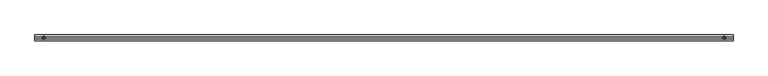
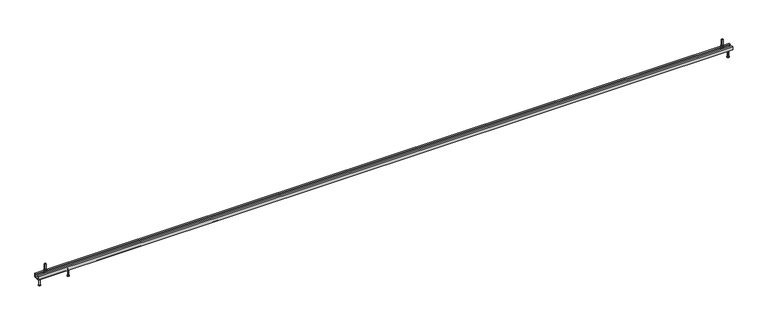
"""IFC4 building model written with IfcOpenShell, lengths in millimetres: fastener geometry, JTA-K JORDAHL® AnchorChannels : JTA-K L=6000 mm."""

from ifc_helpers import new_model, si_unit, point, frame, frame_2d, origin, place, context, project, spatial, polyline, circle_curve, trimmed, segment, composite_curve, outline, extrude, source, transform, mapped, element, save
from ifc_brep_helpers import plane_surface, cylinder_surface, revolved_surface, advanced_brep


def fastener_ee30c52b(model_context):
    return source(origin(), model_context, "Body", "SolidModel", [
        advanced_brep(
        [(272.9166667, 0.0, -30.0), (259.4166667, 0.0, -30.0), (286.4166667, 0.0, -30.0), (264.4166667, 0.0, -100.0), (272.9166667, 0.0, -100.0), (281.4166667, 0.0, -100.0), (264.4166667, 0.0, -98.0), (281.4166667, 0.0, -98.0), (268.4166667, 0.0, -95.6905989), (277.4166667, 0.0, -95.6905989), (268.4166667, 0.0, -32.5), (277.4166667, 0.0, -32.5)],
        [
            (0, 1),
            (1, 2, circle_curve(frame((272.9166667, 0.0, -30.0), z_axis=(0.0, 0.0, 1.0), x_axis=(1.0, 0.0, 0.0)), 13.5)),
            (2, 0),
            (2, 1, circle_curve(frame((272.9166667, 0.0, -30.0), z_axis=(0.0, 0.0, 1.0), x_axis=(1.0, 0.0, 0.0)), 13.5)),
            (3, 4),
            (4, 5),
            (5, 3, circle_curve(frame((272.9166667, 0.0, -100.0), z_axis=(0.0, 0.0, -1.0), x_axis=(1.0, 0.0, 0.0)), 8.5)),
            (3, 5, circle_curve(frame((272.9166667, 0.0, -100.0), z_axis=(0.0, 0.0, -1.0), x_axis=(1.0, 0.0, 0.0)), 8.5)),
            (6, 3),
            (5, 7),
            (7, 6, circle_curve(frame((272.9166667, 0.0, -98.0), z_axis=(0.0, 0.0, -1.0), x_axis=(1.0, 0.0, 0.0)), 8.5)),
            (6, 7, circle_curve(frame((272.9166667, 0.0, -98.0), z_axis=(0.0, 0.0, -1.0), x_axis=(1.0, 0.0, 0.0)), 8.5)),
            (8, 6),
            (7, 9),
            (9, 8, circle_curve(frame((272.9166667, 0.0, -95.6905989), z_axis=(0.0, 0.0, -1.0), x_axis=(1.0, 0.0, 0.0)), 4.5)),
            (8, 9, circle_curve(frame((272.9166667, 0.0, -95.6905989), z_axis=(0.0, 0.0, -1.0), x_axis=(1.0, 0.0, 0.0)), 4.5)),
            (10, 8),
            (9, 11),
            (11, 10, circle_curve(frame((272.9166667, 0.0, -32.5), z_axis=(0.0, 0.0, -1.0), x_axis=(1.0, 0.0, 0.0)), 4.5)),
            (10, 11, circle_curve(frame((272.9166667, 0.0, -32.5), z_axis=(0.0, 0.0, -1.0), x_axis=(1.0, 0.0, 0.0)), 4.5)),
            (1, 10),
            (11, 2),
        ],
        [
            plane_surface(frame((272.9166667, 0.0, -30.0), z_axis=(0.0, 0.0, 1.0), x_axis=(1.0, 0.0, 0.0))),
            plane_surface(frame((272.9166667, 0.0, -100.0), z_axis=(0.0, 0.0, -1.0), x_axis=(1.0, 0.0, 0.0))),
            cylinder_surface(frame((272.9166667, 0.0, 2284.3150031), z_axis=(0.0, 0.0, 1.0), x_axis=(1.0, 0.0, 0.0)), 8.5),
            revolved_surface(polyline([(281.4166667, 0.0, -98.0), (277.4166667, 0.0, -95.6905989)]), (272.9166667, 0.0, 2284.3150031), (0.0, 0.0, 1.0)),
            cylinder_surface(frame((272.9166667, 0.0, 2284.3150031), z_axis=(0.0, 0.0, 1.0), x_axis=(1.0, 0.0, 0.0)), 4.5),
            revolved_surface(polyline([(277.4166667, 0.0, -32.5), (286.4166667, 0.0, -30.0)]), (272.9166667, 0.0, 2284.3150031), (0.0, 0.0, 1.0)),
        ],
        [
            (0, [[1, 2, 3]]),
            (0, [[-3, 4, -1]]),
            (1, [[5, 6, 7]]),
            (1, [[-6, -5, 8]]),
            (2, [[9, -7, 10, 11]]),
            (2, [[-10, -8, -9, 12]]),
            (3, [[13, -11, 14, 15]]),
            (3, [[-14, -12, -13, 16]]),
            (4, [[17, -15, 18, 19]]),
            (4, [[-18, -16, -17, 20]]),
            (5, [[21, -19, 22, -2]]),
            (5, [[-22, -20, -21, -4]]),
        ],
    ),
        extrude(outline(polyline([(5925.0, -10.3923048), (5916.0, -5.1961524), (5916.0, 5.1961524), (5925.0, 10.3923048), (5934.0, 5.1961524), (5934.0, -5.1961524), (5925.0, -10.3923048)]), holes=[composite_curve([segment(trimmed(circle_curve(frame_2d((5925.0, 0.0)), 6.0), [point((5919.0, 0.0))], [point((5931.0, 0.0))], True, "CARTESIAN"), True, "CONTINUOUS"), segment(trimmed(circle_curve(frame_2d((5925.0, 0.0)), 6.0), [point((5931.0, 0.0))], [point((5919.0, 0.0))], True, "CARTESIAN"), True, "CONTINUOUS")], self_intersect=False)]), frame((0.0, 0.0, 17.5), z_axis=(0.0, 0.0, 1.0), x_axis=(1.0, 0.0, 0.0)), (0.0, 0.0, 1.0), 10.8),
        extrude(outline(composite_curve([segment(trimmed(circle_curve(frame_2d((5925.0, 0.0)), 12.0), [point((5913.0, 0.0))], [point((5937.0, 0.0))], False, "CARTESIAN"), True, "CONTINUOUS"), segment(trimmed(circle_curve(frame_2d((5925.0, 0.0)), 12.0), [point((5937.0, 0.0))], [point((5913.0, 0.0))], False, "CARTESIAN"), True, "CONTINUOUS")], self_intersect=False), holes=[composite_curve([segment(trimmed(circle_curve(frame_2d((5925.0, 0.0)), 6.5), [point((5918.5, 0.0))], [point((5931.5, 0.0))], True, "CARTESIAN"), True, "CONTINUOUS"), segment(trimmed(circle_curve(frame_2d((5925.0, 0.0)), 6.5), [point((5931.5, 0.0))], [point((5918.5, 0.0))], True, "CARTESIAN"), True, "CONTINUOUS")], self_intersect=False)]), frame((0.0, 0.0, 15.0), z_axis=(0.0, 0.0, 1.0), x_axis=(1.0, 0.0, 0.0)), (0.0, 0.0, 1.0), 2.5),
        extrude(outline(polyline([(75.0, -10.3923048), (66.0, -5.1961524), (66.0, 5.1961524), (75.0, 10.3923048), (84.0, 5.1961524), (84.0, -5.1961524), (75.0, -10.3923048)]), holes=[composite_curve([segment(trimmed(circle_curve(frame_2d((75.0, 0.0)), 6.0), [point((69.0, 0.0))], [point((81.0, 0.0))], True, "CARTESIAN"), True, "CONTINUOUS"), segment(trimmed(circle_curve(frame_2d((75.0, 0.0)), 6.0), [point((81.0, 0.0))], [point((69.0, 0.0))], True, "CARTESIAN"), True, "CONTINUOUS")], self_intersect=False)]), frame((0.0, 0.0, 17.5), z_axis=(0.0, 0.0, 1.0), x_axis=(1.0, 0.0, 0.0)), (0.0, 0.0, 1.0), 10.8),
        extrude(outline(composite_curve([segment(trimmed(circle_curve(frame_2d((75.0, 0.0)), 12.0), [point((63.0, 0.0))], [point((87.0, 0.0))], False, "CARTESIAN"), True, "CONTINUOUS"), segment(trimmed(circle_curve(frame_2d((75.0, 0.0)), 12.0), [point((87.0, 0.0))], [point((63.0, 0.0))], False, "CARTESIAN"), True, "CONTINUOUS")], self_intersect=False), holes=[composite_curve([segment(trimmed(circle_curve(frame_2d((75.0, 0.0)), 6.5), [point((68.5, 0.0))], [point((81.5, 0.0))], True, "CARTESIAN"), True, "CONTINUOUS"), segment(trimmed(circle_curve(frame_2d((75.0, 0.0)), 6.5), [point((81.5, 0.0))], [point((68.5, 0.0))], True, "CARTESIAN"), True, "CONTINUOUS")], self_intersect=False)]), frame((0.0, 0.0, 15.0), z_axis=(0.0, 0.0, 1.0), x_axis=(1.0, 0.0, 0.0)), (0.0, 0.0, 1.0), 2.5),
        advanced_brep(
        [(5933.5, -20.7, -3.0), (5933.5, -20.7, -13.0), (5933.5, 20.7, -13.0), (5933.5, 20.7, -3.0), (5916.5, -20.7, -3.0), (5916.5, 20.7, -3.0), (5916.5, 20.7, -13.0), (5916.5, -20.7, -13.0), (5931.0, 0.0, -3.0), (5919.0, 0.0, -3.0), (5919.0, 0.0, 77.0), (5931.0, 0.0, 77.0)],
        [
            (0, 1),
            (1, 2),
            (2, 3),
            (3, 0),
            (4, 5),
            (5, 6),
            (6, 7),
            (7, 4),
            (3, 5),
            (4, 0),
            (8, 9, circle_curve(frame((5925.0, 0.0, -3.0), z_axis=(0.0, 0.0, -1.0), x_axis=(1.0, 0.0, 0.0)), 6.0)),
            (9, 8, circle_curve(frame((5925.0, 0.0, -3.0), z_axis=(0.0, 0.0, -1.0), x_axis=(1.0, 0.0, 0.0)), 6.0)),
            (2, 6),
            (1, 7),
            (10, 11, circle_curve(frame((5925.0, 0.0, 77.0), z_axis=(0.0, 0.0, 1.0), x_axis=(1.0, 0.0, 0.0)), 6.0)),
            (11, 10, circle_curve(frame((5925.0, 0.0, 77.0), z_axis=(0.0, 0.0, 1.0), x_axis=(1.0, 0.0, 0.0)), 6.0)),
            (11, 8),
            (9, 10),
        ],
        [
            plane_surface(frame((5933.5, 20.7, -3.0), z_axis=(1.0, 0.0, 0.0), x_axis=(0.0, 1.0, 0.0))),
            plane_surface(frame((5916.5, 20.7, -3.0), z_axis=(-1.0, 0.0, 0.0), x_axis=(0.0, -1.0, 0.0))),
            plane_surface(frame((5933.5, -20.7, -3.0), z_axis=(0.0, 0.0, 1.0), x_axis=(-1.0, 0.0, 0.0))),
            plane_surface(frame((5933.5, 20.7, -3.0), z_axis=(0.0, 1.0, 0.0), x_axis=(-1.0, 0.0, 0.0))),
            plane_surface(frame((5933.5, 20.7, -13.0), z_axis=(0.0, 0.0, -1.0), x_axis=(-1.0, 0.0, 0.0))),
            plane_surface(frame((5933.5, -20.7, -13.0), z_axis=(0.0, -1.0, 0.0), x_axis=(-1.0, 0.0, 0.0))),
            plane_surface(frame((5931.0, 0.0, 77.0), z_axis=(0.0, 0.0, 1.0), x_axis=(0.0, -1.0, 0.0))),
            cylinder_surface(frame((5925.0, 0.0, -3.0), z_axis=(0.0, 0.0, 1.0), x_axis=(1.0, 0.0, 0.0)), 6.0),
        ],
        [
            (0, [[1, 2, 3, 4]]),
            (1, [[5, 6, 7, 8]]),
            (2, [[9, -5, 10, -4], [11, 12]]),
            (3, [[13, -6, -9, -3]]),
            (4, [[14, -7, -13, -2]]),
            (5, [[-10, -8, -14, -1]]),
            (6, [[15, 16]]),
            (7, [[17, -12, 18, -16]]),
            (7, [[-18, -11, -17, -15]]),
        ],
    ),
        advanced_brep(
        [(83.5, -20.7, -3.0), (83.5, -20.7, -13.0), (83.5, 20.7, -13.0), (83.5, 20.7, -3.0), (66.5, -20.7, -3.0), (66.5, 20.7, -3.0), (66.5, 20.7, -13.0), (66.5, -20.7, -13.0), (81.0, 0.0, -3.0), (69.0, 0.0, -3.0), (69.0, 0.0, 77.0), (81.0, 0.0, 77.0)],
        [
            (0, 1),
            (1, 2),
            (2, 3),
            (3, 0),
            (4, 5),
            (5, 6),
            (6, 7),
            (7, 4),
            (3, 5),
            (4, 0),
            (8, 9, circle_curve(frame((75.0, 0.0, -3.0), z_axis=(0.0, 0.0, -1.0), x_axis=(1.0, 0.0, 0.0)), 6.0)),
            (9, 8, circle_curve(frame((75.0, 0.0, -3.0), z_axis=(0.0, 0.0, -1.0), x_axis=(1.0, 0.0, 0.0)), 6.0)),
            (2, 6),
            (1, 7),
            (10, 11, circle_curve(frame((75.0, 0.0, 77.0), z_axis=(0.0, 0.0, 1.0), x_axis=(1.0, 0.0, 0.0)), 6.0)),
            (11, 10, circle_curve(frame((75.0, 0.0, 77.0), z_axis=(0.0, 0.0, 1.0), x_axis=(1.0, 0.0, 0.0)), 6.0)),
            (11, 8),
            (9, 10),
        ],
        [
            plane_surface(frame((83.5, 20.7, -3.0), z_axis=(1.0, 0.0, 0.0), x_axis=(0.0, 1.0, 0.0))),
            plane_surface(frame((66.5, 20.7, -3.0), z_axis=(-1.0, 0.0, 0.0), x_axis=(0.0, -1.0, 0.0))),
            plane_surface(frame((83.5, -20.7, -3.0), z_axis=(0.0, 0.0, 1.0), x_axis=(-1.0, 0.0, 0.0))),
            plane_surface(frame((83.5, 20.7, -3.0), z_axis=(0.0, 1.0, 0.0), x_axis=(-1.0, 0.0, 0.0))),
            plane_surface(frame((83.5, 20.7, -13.0), z_axis=(0.0, 0.0, -1.0), x_axis=(-1.0, 0.0, 0.0))),
            plane_surface(frame((83.5, -20.7, -13.0), z_axis=(0.0, -1.0, 0.0), x_axis=(-1.0, 0.0, 0.0))),
            plane_surface(frame((81.0, 0.0, 77.0), z_axis=(0.0, 0.0, 1.0), x_axis=(0.0, -1.0, 0.0))),
            cylinder_surface(frame((75.0, 0.0, -3.0), z_axis=(0.0, 0.0, 1.0), x_axis=(1.0, 0.0, 0.0)), 6.0),
        ],
        [
            (0, [[1, 2, 3, 4]]),
            (1, [[5, 6, 7, 8]]),
            (2, [[9, -5, 10, -4], [11, 12]]),
            (3, [[13, -6, -9, -3]]),
            (4, [[14, -7, -13, -2]]),
            (5, [[-10, -8, -14, -1]]),
            (6, [[15, 16]]),
            (7, [[17, -12, 18, -16]]),
            (7, [[-18, -11, -17, -15]]),
        ],
    ),
        advanced_brep(
        [(5975.0, 0.0, -30.0), (5961.5, 0.0, -30.0), (5988.5, 0.0, -30.0), (5966.5, 0.0, -100.0), (5975.0, 0.0, -100.0), (5983.5, 0.0, -100.0), (5966.5, 0.0, -98.0), (5983.5, 0.0, -98.0), (5970.5, 0.0, -95.6905989), (5979.5, 0.0, -95.6905989), (5970.5, 0.0, -32.5), (5979.5, 0.0, -32.5)],
        [
            (0, 1),
            (1, 2, circle_curve(frame((5975.0, 0.0, -30.0), z_axis=(0.0, 0.0, 1.0), x_axis=(1.0, 0.0, 0.0)), 13.5)),
            (2, 0),
            (2, 1, circle_curve(frame((5975.0, 0.0, -30.0), z_axis=(0.0, 0.0, 1.0), x_axis=(1.0, 0.0, 0.0)), 13.5)),
            (3, 4),
            (4, 5),
            (5, 3, circle_curve(frame((5975.0, 0.0, -100.0), z_axis=(0.0, 0.0, -1.0), x_axis=(1.0, 0.0, 0.0)), 8.5)),
            (3, 5, circle_curve(frame((5975.0, 0.0, -100.0), z_axis=(0.0, 0.0, -1.0), x_axis=(1.0, 0.0, 0.0)), 8.5)),
            (6, 3),
            (5, 7),
            (7, 6, circle_curve(frame((5975.0, 0.0, -98.0), z_axis=(0.0, 0.0, -1.0), x_axis=(1.0, 0.0, 0.0)), 8.5)),
            (6, 7, circle_curve(frame((5975.0, 0.0, -98.0), z_axis=(0.0, 0.0, -1.0), x_axis=(1.0, 0.0, 0.0)), 8.5)),
            (8, 6),
            (7, 9),
            (9, 8, circle_curve(frame((5975.0, 0.0, -95.6905989), z_axis=(0.0, 0.0, -1.0), x_axis=(1.0, 0.0, 0.0)), 4.5)),
            (8, 9, circle_curve(frame((5975.0, 0.0, -95.6905989), z_axis=(0.0, 0.0, -1.0), x_axis=(1.0, 0.0, 0.0)), 4.5)),
            (10, 8),
            (9, 11),
            (11, 10, circle_curve(frame((5975.0, 0.0, -32.5), z_axis=(0.0, 0.0, -1.0), x_axis=(1.0, 0.0, 0.0)), 4.5)),
            (10, 11, circle_curve(frame((5975.0, 0.0, -32.5), z_axis=(0.0, 0.0, -1.0), x_axis=(1.0, 0.0, 0.0)), 4.5)),
            (1, 10),
            (11, 2),
        ],
        [
            plane_surface(frame((5975.0, 0.0, -30.0), z_axis=(0.0, 0.0, 1.0), x_axis=(1.0, 0.0, 0.0))),
            plane_surface(frame((5975.0, 0.0, -100.0), z_axis=(0.0, 0.0, -1.0), x_axis=(1.0, 0.0, 0.0))),
            cylinder_surface(frame((5975.0, 0.0, 2284.3150031), z_axis=(0.0, 0.0, 1.0), x_axis=(1.0, 0.0, 0.0)), 8.5),
            revolved_surface(polyline([(5983.5, 0.0, -98.0), (5979.5, 0.0, -95.6905989)]), (5975.0, 0.0, 2284.3150031), (0.0, 0.0, 1.0)),
            cylinder_surface(frame((5975.0, 0.0, 2284.3150031), z_axis=(0.0, 0.0, 1.0), x_axis=(1.0, 0.0, 0.0)), 4.5),
            revolved_surface(polyline([(5979.5, 0.0, -32.5), (5988.5, 0.0, -30.0)]), (5975.0, 0.0, 2284.3150031), (0.0, 0.0, 1.0)),
        ],
        [
            (0, [[1, 2, 3]]),
            (0, [[-3, 4, -1]]),
            (1, [[5, 6, 7]]),
            (1, [[-6, -5, 8]]),
            (2, [[9, -7, 10, 11]]),
            (2, [[-10, -8, -9, 12]]),
            (3, [[13, -11, 14, 15]]),
            (3, [[-14, -12, -13, 16]]),
            (4, [[17, -15, 18, 19]]),
            (4, [[-18, -16, -17, 20]]),
            (5, [[21, -19, 22, -2]]),
            (5, [[-22, -20, -21, -4]]),
        ],
    ),
        advanced_brep(
        [(25.0, 0.0, -30.0), (11.5, 0.0, -30.0), (38.5, 0.0, -30.0), (16.5, 0.0, -100.0), (25.0, 0.0, -100.0), (33.5, 0.0, -100.0), (16.5, 0.0, -98.0), (33.5, 0.0, -98.0), (20.5, 0.0, -95.6905989), (29.5, 0.0, -95.6905989), (20.5, 0.0, -32.5), (29.5, 0.0, -32.5)],
        [
            (0, 1),
            (1, 2, circle_curve(frame((25.0, 0.0, -30.0), z_axis=(0.0, 0.0, 1.0), x_axis=(1.0, 0.0, 0.0)), 13.5)),
            (2, 0),
            (2, 1, circle_curve(frame((25.0, 0.0, -30.0), z_axis=(0.0, 0.0, 1.0), x_axis=(1.0, 0.0, 0.0)), 13.5)),
            (3, 4),
            (4, 5),
            (5, 3, circle_curve(frame((25.0, 0.0, -100.0), z_axis=(0.0, 0.0, -1.0), x_axis=(1.0, 0.0, 0.0)), 8.5)),
            (3, 5, circle_curve(frame((25.0, 0.0, -100.0), z_axis=(0.0, 0.0, -1.0), x_axis=(1.0, 0.0, 0.0)), 8.5)),
            (6, 3),
            (5, 7),
            (7, 6, circle_curve(frame((25.0, 0.0, -98.0), z_axis=(0.0, 0.0, -1.0), x_axis=(1.0, 0.0, 0.0)), 8.5)),
            (6, 7, circle_curve(frame((25.0, 0.0, -98.0), z_axis=(0.0, 0.0, -1.0), x_axis=(1.0, 0.0, 0.0)), 8.5)),
            (8, 6),
            (7, 9),
            (9, 8, circle_curve(frame((25.0, 0.0, -95.6905989), z_axis=(0.0, 0.0, -1.0), x_axis=(1.0, 0.0, 0.0)), 4.5)),
            (8, 9, circle_curve(frame((25.0, 0.0, -95.6905989), z_axis=(0.0, 0.0, -1.0), x_axis=(1.0, 0.0, 0.0)), 4.5)),
            (10, 8),
            (9, 11),
            (11, 10, circle_curve(frame((25.0, 0.0, -32.5), z_axis=(0.0, 0.0, -1.0), x_axis=(1.0, 0.0, 0.0)), 4.5)),
            (10, 11, circle_curve(frame((25.0, 0.0, -32.5), z_axis=(0.0, 0.0, -1.0), x_axis=(1.0, 0.0, 0.0)), 4.5)),
            (1, 10),
            (11, 2),
        ],
        [
            plane_surface(frame((25.0, 0.0, -30.0), z_axis=(0.0, 0.0, 1.0), x_axis=(1.0, 0.0, 0.0))),
            plane_surface(frame((25.0, 0.0, -100.0), z_axis=(0.0, 0.0, -1.0), x_axis=(1.0, 0.0, 0.0))),
            cylinder_surface(frame((25.0, 0.0, 2284.3150031), z_axis=(0.0, 0.0, 1.0), x_axis=(1.0, 0.0, 0.0)), 8.5),
            revolved_surface(polyline([(33.5, 0.0, -98.0), (29.5, 0.0, -95.6905989)]), (25.0, 0.0, 2284.3150031), (0.0, 0.0, 1.0)),
            cylinder_surface(frame((25.0, 0.0, 2284.3150031), z_axis=(0.0, 0.0, 1.0), x_axis=(1.0, 0.0, 0.0)), 4.5),
            revolved_surface(polyline([(29.5, 0.0, -32.5), (38.5, 0.0, -30.0)]), (25.0, 0.0, 2284.3150031), (0.0, 0.0, 1.0)),
        ],
        [
            (0, [[1, 2, 3]]),
            (0, [[-3, 4, -1]]),
            (1, [[5, 6, 7]]),
            (1, [[-6, -5, 8]]),
            (2, [[9, -7, 10, 11]]),
            (2, [[-10, -8, -9, 12]]),
            (3, [[13, -11, 14, 15]]),
            (3, [[-14, -12, -13, 16]]),
            (4, [[17, -15, 18, 19]]),
            (4, [[-18, -16, -17, 20]]),
            (5, [[21, -19, 22, -2]]),
            (5, [[-22, -20, -21, -4]]),
        ],
    ),
        extrude(outline(polyline([(-25.0, 0.0), (-11.0, 0.0), (-11.0, -3.0), (-22.0, -3.0), (-22.0, -27.0), (22.0, -27.0), (22.0, -3.0), (11.0, -3.0), (11.0, 0.0), (25.0, 0.0), (25.0, -30.0), (-25.0, -30.0), (-25.0, 0.0)])), frame((0.0, 0.0, 0.0), z_axis=(1.0, 0.0, 0.0), x_axis=(0.0, 1.0, 0.0)), (0.0, 0.0, 1.0), 6000.0),
    ])


if __name__ == "__main__":
    model = new_model("IFC4")
    model_context = context("Model", 3, world=origin())
    ifc_project = project(units=[si_unit("LENGTHUNIT", "METRE", prefix="MILLI")], contexts=[model_context])
    site = spatial("IfcSite", under=ifc_project)
    building = spatial("IfcBuilding", under=site)
    placement = place(None, origin())
    fastener_shape = fastener_ee30c52b(model_context)
    element("IfcFastener", 1, ObjectType="JTA-K JORDAHL® AnchorChannels : JTA-K L=6000 mm", at=placement, inside=building, context=model_context, shape_type="MappedRepresentation", body=[
        mapped(fastener_shape, transform((0.0, 0.0, 0.0), x_axis=(1.0, 0.0, 0.0), y_axis=(0.0, 1.0, 0.0), z_axis=(0.0, 0.0, 1.0))),
    ])
    save(model, "model.ifc")
